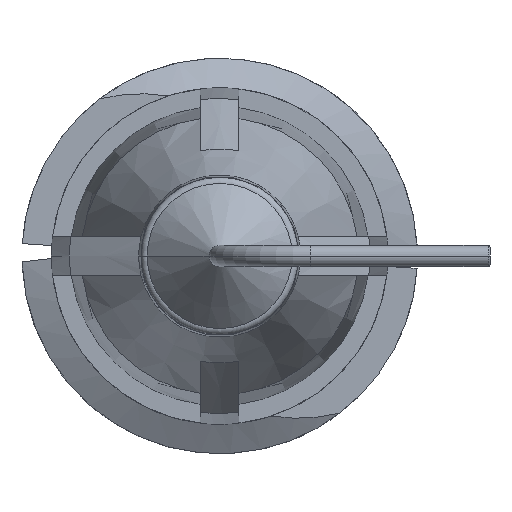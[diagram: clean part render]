
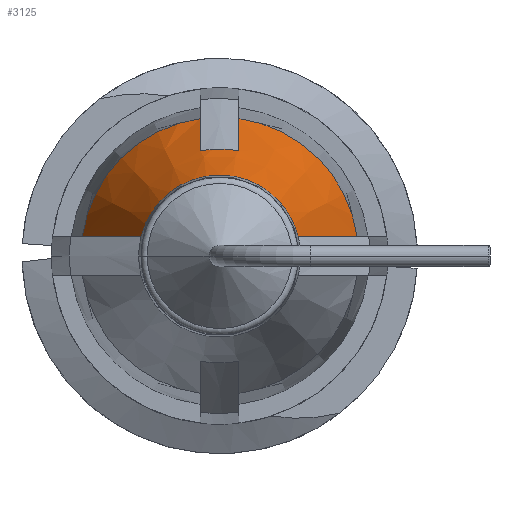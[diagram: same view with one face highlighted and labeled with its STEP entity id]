
A CAD part, front view. The second image highlights one B-rep face of the part: STEP entity #3125.
In plain terms, the highlighted conical face has half-angle 20 degrees and reference radius 2.745 mm.
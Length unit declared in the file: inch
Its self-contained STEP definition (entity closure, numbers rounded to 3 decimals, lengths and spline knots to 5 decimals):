
#146 = EDGE_CURVE ( 'NONE', #631, #3689, #2411, .T. ) ;
#192 = ORIENTED_EDGE ( 'NONE', *, *, #3101, .F. ) ;
#250 = CARTESIAN_POINT ( 'NONE',  ( 0., -0.406, 0. ) ) ;
#364 = CARTESIAN_POINT ( 'NONE',  ( -0.015, -0.42866, 0.0987 ) ) ;
#389 = EDGE_CURVE ( 'NONE', #3576, #1685, #1665, .T. ) ;
#396 = VERTEX_POINT ( 'NONE', #2584 ) ;
#446 = VERTEX_POINT ( 'NONE', #2670 ) ;
#448 = DIRECTION ( 'NONE',  ( -1., 0., 0. ) ) ;
#523 = CARTESIAN_POINT ( 'NONE',  ( 0.10703, -0.406, 0.015 ) ) ;
#542 = CARTESIAN_POINT ( 'NONE',  ( -0.10703, -0.406, 0.015 ) ) ;
#586 = CARTESIAN_POINT ( 'NONE',  ( 0., -0.406, 0. ) ) ;
#631 = VERTEX_POINT ( 'NONE', #2127 ) ;
#787 = EDGE_LOOP ( 'NONE', ( #819, #2398, #2577, #192, #1794, #1923, #2203, #3983 ) ) ;
#792 = CARTESIAN_POINT ( 'NONE',  ( 0.06119, -0.52985, 0.015 ) ) ;
#819 = ORIENTED_EDGE ( 'NONE', *, *, #4008, .F. ) ;
#855 = B_SPLINE_CURVE_WITH_KNOTS ( 'NONE', 3,
 ( #1752, #3654, #3001, #542 ),
 .UNSPECIFIED., .F., .F.,
 ( 4, 4 ),
 ( 0.00282, 0.00617 ),
 .UNSPECIFIED. ) ;
#901 = DIRECTION ( 'NONE',  ( -1., 0., 0. ) ) ;
#956 = CARTESIAN_POINT ( 'NONE',  ( 0.015, -0.47395, 0.08198 ) ) ;
#1085 = EDGE_CURVE ( 'NONE', #1685, #446, #1582, .T. ) ;
#1157 = CARTESIAN_POINT ( 'NONE',  ( 0.10703, -0.406, 0.015 ) ) ;
#1297 = EDGE_CURVE ( 'NONE', #2774, #3576, #3614, .T. ) ;
#1324 = CARTESIAN_POINT ( 'NONE',  ( -0.015, -0.45131, 0.09036 ) ) ;
#1338 = CARTESIAN_POINT ( 'NONE',  ( -0.015, -0.47395, 0.08198 ) ) ;
#1454 = CARTESIAN_POINT ( 'NONE',  ( 0.06119, -0.52985, 0.015 ) ) ;
#1582 = CIRCLE ( 'NONE', #1846, 0.08335 ) ;
#1665 = B_SPLINE_CURVE_WITH_KNOTS ( 'NONE', 3,
 ( #3178, #364, #1324, #3507 ),
 .UNSPECIFIED., .F., .F.,
 ( 4, 4 ),
 ( 0.00343, 0.00527 ),
 .UNSPECIFIED. ) ;
#1679 = CARTESIAN_POINT ( 'NONE',  ( -0.10703, -0.406, 0.015 ) ) ;
#1685 = VERTEX_POINT ( 'NONE', #1338 ) ;
#1752 = CARTESIAN_POINT ( 'NONE',  ( -0.06119, -0.52985, 0.015 ) ) ;
#1794 = ORIENTED_EDGE ( 'NONE', *, *, #1858, .F. ) ;
#1809 = CARTESIAN_POINT ( 'NONE',  ( 0.015, -0.45131, 0.09036 ) ) ;
#1821 = CARTESIAN_POINT ( 'NONE',  ( 0., -0.406, 0. ) ) ;
#1846 = AXIS2_PLACEMENT_3D ( 'NONE', #2123, #2417, #2473 ) ;
#1858 = EDGE_CURVE ( 'NONE', #446, #396, #3365, .T. ) ;
#1876 = AXIS2_PLACEMENT_3D ( 'NONE', #586, #2115, #2748 ) ;
#1923 = ORIENTED_EDGE ( 'NONE', *, *, #1085, .F. ) ;
#1932 = CONICAL_SURFACE ( 'NONE', #2786, 0.10808, 0.349 ) ;
#2018 = CARTESIAN_POINT ( 'NONE',  ( 0., -0.52985, 0. ) ) ;
#2115 = DIRECTION ( 'NONE',  ( 0., 1., 0. ) ) ;
#2123 = CARTESIAN_POINT ( 'NONE',  ( 0., -0.47395, 0. ) ) ;
#2127 = CARTESIAN_POINT ( 'NONE',  ( -0.06119, -0.52985, 0.015 ) ) ;
#2200 = CARTESIAN_POINT ( 'NONE',  ( 0.015, -0.406, 0.10703 ) ) ;
#2203 = ORIENTED_EDGE ( 'NONE', *, *, #389, .F. ) ;
#2398 = ORIENTED_EDGE ( 'NONE', *, *, #146, .T. ) ;
#2411 = CIRCLE ( 'NONE', #3255, 0.063 ) ;
#2414 = DIRECTION ( 'NONE',  ( 0., 1., 0. ) ) ;
#2417 = DIRECTION ( 'NONE',  ( 0., 1., 0. ) ) ;
#2473 = DIRECTION ( 'NONE',  ( 1., 0., 0. ) ) ;
#2507 = CARTESIAN_POINT ( 'NONE',  ( 0.015, -0.42866, 0.0987 ) ) ;
#2577 = ORIENTED_EDGE ( 'NONE', *, *, #3683, .T. ) ;
#2584 = CARTESIAN_POINT ( 'NONE',  ( 0.015, -0.406, 0.10703 ) ) ;
#2670 = CARTESIAN_POINT ( 'NONE',  ( 0.015, -0.47395, 0.08198 ) ) ;
#2734 = CIRCLE ( 'NONE', #1876, 0.10808 ) ;
#2748 = DIRECTION ( 'NONE',  ( -1., 0., 0. ) ) ;
#2774 = VERTEX_POINT ( 'NONE', #1679 ) ;
#2786 = AXIS2_PLACEMENT_3D ( 'NONE', #250, #2414, #901 ) ;
#2800 = FACE_OUTER_BOUND ( 'NONE', #787, .T. ) ;
#3001 = CARTESIAN_POINT ( 'NONE',  ( -0.09185, -0.44732, 0.015 ) ) ;
#3065 = VERTEX_POINT ( 'NONE', #1157 ) ;
#3094 = AXIS2_PLACEMENT_3D ( 'NONE', #1821, #3662, #4035 ) ;
#3101 = EDGE_CURVE ( 'NONE', #396, #3065, #2734, .T. ) ;
#3125 = ADVANCED_FACE ( 'NONE', ( #2800 ), #1932, .T. ) ;
#3178 = CARTESIAN_POINT ( 'NONE',  ( -0.015, -0.406, 0.10703 ) ) ;
#3255 = AXIS2_PLACEMENT_3D ( 'NONE', #2018, #3258, #448 ) ;
#3258 = DIRECTION ( 'NONE',  ( 0., 1., 0. ) ) ;
#3365 = B_SPLINE_CURVE_WITH_KNOTS ( 'NONE', 3,
 ( #956, #1809, #2507, #2200 ),
 .UNSPECIFIED., .F., .F.,
 ( 4, 4 ),
 ( 0.00247, 0.00431 ),
 .UNSPECIFIED. ) ;
#3507 = CARTESIAN_POINT ( 'NONE',  ( -0.015, -0.47395, 0.08198 ) ) ;
#3529 = CARTESIAN_POINT ( 'NONE',  ( -0.015, -0.406, 0.10703 ) ) ;
#3576 = VERTEX_POINT ( 'NONE', #3529 ) ;
#3614 = CIRCLE ( 'NONE', #3094, 0.10808 ) ;
#3644 = B_SPLINE_CURVE_WITH_KNOTS ( 'NONE', 3,
 ( #792, #3922, #3680, #523 ),
 .UNSPECIFIED., .F., .F.,
 ( 4, 4 ),
 ( 0.00282, 0.00617 ),
 .UNSPECIFIED. ) ;
#3654 = CARTESIAN_POINT ( 'NONE',  ( -0.07664, -0.48863, 0.015 ) ) ;
#3662 = DIRECTION ( 'NONE',  ( 0., 1., 0. ) ) ;
#3680 = CARTESIAN_POINT ( 'NONE',  ( 0.09185, -0.44732, 0.015 ) ) ;
#3683 = EDGE_CURVE ( 'NONE', #3689, #3065, #3644, .T. ) ;
#3689 = VERTEX_POINT ( 'NONE', #1454 ) ;
#3922 = CARTESIAN_POINT ( 'NONE',  ( 0.07664, -0.48863, 0.015 ) ) ;
#3983 = ORIENTED_EDGE ( 'NONE', *, *, #1297, .F. ) ;
#4008 = EDGE_CURVE ( 'NONE', #631, #2774, #855, .T. ) ;
#4035 = DIRECTION ( 'NONE',  ( -1., 0., 0. ) ) ;
